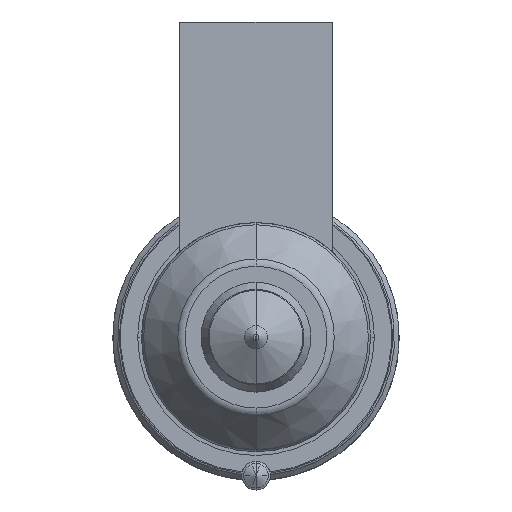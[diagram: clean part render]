
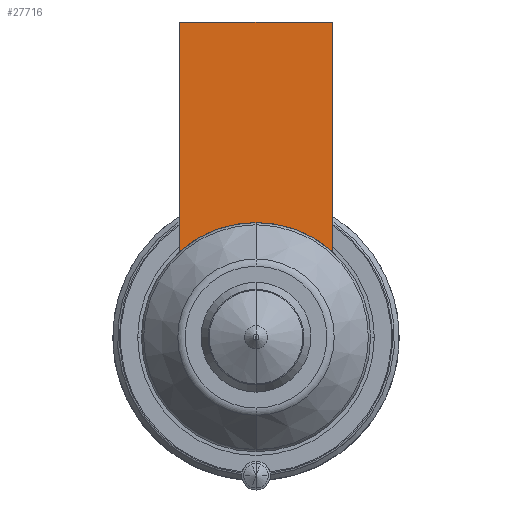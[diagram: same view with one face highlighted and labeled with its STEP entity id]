
A CAD part, front view. The second image highlights one B-rep face of the part: STEP entity #27716.
In plain terms, the highlighted planar face has unit normal (0, -1, 0).
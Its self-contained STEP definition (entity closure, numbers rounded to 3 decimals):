
#26889=DIRECTION('',(0.,0.,-1.));
#26890=VECTOR('',#26889,24.056);
#26891=CARTESIAN_POINT('',(-8.,-56.,33.));
#26892=LINE('',#26891,#26890);
#26904=CARTESIAN_POINT('',(0.,-56.,0.));
#26905=DIRECTION('',(0.,-1.,0.));
#26906=DIRECTION('',(0.,0.,1.));
#26907=AXIS2_PLACEMENT_3D('',#26904,#26905,#26906);
#26912=DIRECTION('',(1.,0.,0.));
#26913=VECTOR('',#26912,16.);
#26914=CARTESIAN_POINT('',(-8.,-56.,33.));
#26915=LINE('',#26914,#26913);
#26919=CARTESIAN_POINT('',(0.,-56.,0.));
#26920=DIRECTION('',(0.,-1.,0.));
#26921=DIRECTION('',(0.667,0.,0.745));
#26922=AXIS2_PLACEMENT_3D('',#26919,#26920,#26921);
#27074=DIRECTION('',(0.,0.,-1.));
#27075=VECTOR('',#27074,24.056);
#27076=CARTESIAN_POINT('',(8.,-56.,33.));
#27077=LINE('',#27076,#27075);
#27631=CARTESIAN_POINT('',(-8.,-56.,33.));
#27632=VERTEX_POINT('',#27631);
#27637=CARTESIAN_POINT('',(8.,-56.,33.));
#27638=VERTEX_POINT('',#27637);
#27640=CARTESIAN_POINT('',(-8.,-56.,8.944));
#27642=VERTEX_POINT('',#27640);
#27644=CARTESIAN_POINT('',(8.,-56.,8.944));
#27646=VERTEX_POINT('',#27644);
#27649=CARTESIAN_POINT('',(0.,-56.,12.));
#27650=VERTEX_POINT('',#27649);
#27701=CARTESIAN_POINT('',(-8.,-56.,33.));
#27702=DIRECTION('',(0.,-1.,0.));
#27703=DIRECTION('',(0.,0.,-1.));
#27704=AXIS2_PLACEMENT_3D('',#27701,#27702,#27703);
#27705=PLANE('',#27704);
#27706=ORIENTED_EDGE('',*,*,#27680,.T.);
#27707=ORIENTED_EDGE('',*,*,#27669,.F.);
#27709=ORIENTED_EDGE('',*,*,#27708,.T.);
#27711=ORIENTED_EDGE('',*,*,#27710,.T.);
#27713=ORIENTED_EDGE('',*,*,#27712,.T.);
#27714=EDGE_LOOP('',(#27706,#27707,#27709,#27711,#27713));
#27715=FACE_OUTER_BOUND('',#27714,.F.);
#27716=ADVANCED_FACE('',(#27715),#27705,.T.);
#26908=CIRCLE('',#26907,12.);
#26923=CIRCLE('',#26922,12.);
#27669=EDGE_CURVE('',#27632,#27642,#26892,.T.);
#27680=EDGE_CURVE('',#27650,#27642,#26908,.T.);
#27708=EDGE_CURVE('',#27632,#27638,#26915,.T.);
#27710=EDGE_CURVE('',#27638,#27646,#27077,.T.);
#27712=EDGE_CURVE('',#27646,#27650,#26923,.T.);
